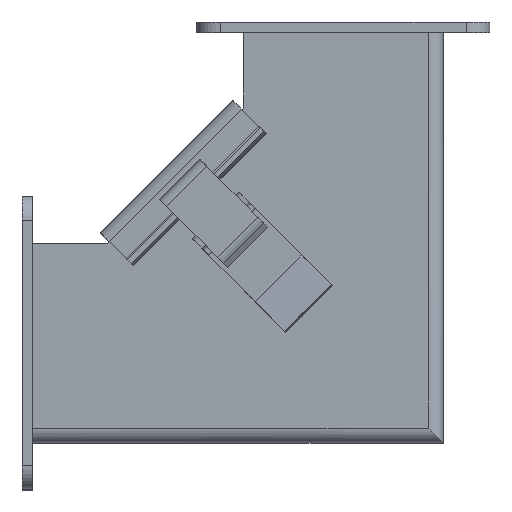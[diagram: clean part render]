
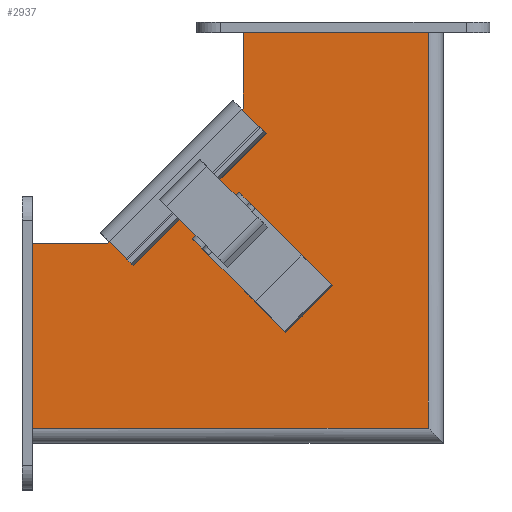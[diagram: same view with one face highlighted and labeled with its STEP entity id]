
A CAD part, top view. The second image highlights one B-rep face of the part: STEP entity #2937.
In plain terms, the highlighted planar face has unit normal (0, 0, 1).
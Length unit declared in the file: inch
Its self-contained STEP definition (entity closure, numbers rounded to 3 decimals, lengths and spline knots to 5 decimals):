
#147 = CARTESIAN_POINT ( 'NONE',  ( -0.7176, 1.33632, 1.3247 ) ) ;
#275 = EDGE_CURVE ( 'NONE', #2103, #2098, #946, .T. ) ;
#318 = EDGE_CURVE ( 'NONE', #1960, #2141, #1087, .T. ) ;
#710 = PLANE ( 'NONE',  #1240 ) ;
#778 = DIRECTION ( 'NONE',  ( -1., 0., 0. ) ) ;
#782 = CARTESIAN_POINT ( 'NONE',  ( 1.125, -3.74682, 1.3247 ) ) ;
#788 = DIRECTION ( 'NONE',  ( 0., 0., -1. ) ) ;
#946 = LINE ( 'NONE', #1989, #991 ) ;
#991 = VECTOR ( 'NONE', #1983, 39.37008 ) ;
#1087 = LINE ( 'NONE', #3128, #1103 ) ;
#1103 = VECTOR ( 'NONE', #3365, 39.37008 ) ;
#1240 = AXIS2_PLACEMENT_3D ( 'NONE', #782, #788, #778 ) ;
#1282 = EDGE_CURVE ( 'NONE', #2072, #2077, #2476, .T. ) ;
#1314 = EDGE_CURVE ( 'NONE', #2072, #2141, #2501, .T. ) ;
#1353 = EDGE_CURVE ( 'NONE', #2142, #2082, #2538, .T. ) ;
#1377 = EDGE_CURVE ( 'NONE', #2077, #2124, #2559, .T. ) ;
#1380 = EDGE_CURVE ( 'NONE', #2142, #2152, #2563, .T. ) ;
#1389 = EDGE_CURVE ( 'NONE', #2082, #2090, #2576, .T. ) ;
#1402 = EDGE_CURVE ( 'NONE', #2103, #1960, #2565, .T. ) ;
#1404 = EDGE_CURVE ( 'NONE', #2152, #2090, #2591, .T. ) ;
#1436 = EDGE_CURVE ( 'NONE', #2124, #2098, #2617, .T. ) ;
#1600 = EDGE_LOOP ( 'NONE', ( #3978, #4016, #4043, #4044, #4042, #4040, #4021 ) ) ;
#1609 = EDGE_LOOP ( 'NONE', ( #3981, #4039, #4050, #4038 ) ) ;
#1960 = VERTEX_POINT ( 'NONE', #3858 ) ;
#1983 = DIRECTION ( 'NONE',  ( -1., 0., 0. ) ) ;
#1989 = CARTESIAN_POINT ( 'NONE',  ( 1.125, -1.125, 1.3247 ) ) ;
#2072 = VERTEX_POINT ( 'NONE', #3867 ) ;
#2077 = VERTEX_POINT ( 'NONE', #3886 ) ;
#2082 = VERTEX_POINT ( 'NONE', #3818 ) ;
#2090 = VERTEX_POINT ( 'NONE', #3799 ) ;
#2098 = VERTEX_POINT ( 'NONE', #3915 ) ;
#2103 = VERTEX_POINT ( 'NONE', #3895 ) ;
#2124 = VERTEX_POINT ( 'NONE', #3916 ) ;
#2141 = VERTEX_POINT ( 'NONE', #3881 ) ;
#2142 = VERTEX_POINT ( 'NONE', #3927 ) ;
#2152 = VERTEX_POINT ( 'NONE', #147 ) ;
#2476 = LINE ( 'NONE', #2953, #2482 ) ;
#2482 = VECTOR ( 'NONE', #3007, 39.37008 ) ;
#2501 = LINE ( 'NONE', #3080, #2502 ) ;
#2502 = VECTOR ( 'NONE', #3082, 39.37008 ) ;
#2538 = LINE ( 'NONE', #3174, #2542 ) ;
#2542 = VECTOR ( 'NONE', #3202, 39.37008 ) ;
#2559 = LINE ( 'NONE', #3251, #2560 ) ;
#2560 = VECTOR ( 'NONE', #3254, 39.37008 ) ;
#2563 = LINE ( 'NONE', #3260, #2564 ) ;
#2564 = VECTOR ( 'NONE', #3261, 39.37008 ) ;
#2565 = LINE ( 'NONE', #3314, #2582 ) ;
#2576 = LINE ( 'NONE', #3289, #2577 ) ;
#2577 = VECTOR ( 'NONE', #3290, 39.37008 ) ;
#2582 = VECTOR ( 'NONE', #3315, 39.37008 ) ;
#2591 = LINE ( 'NONE', #3326, #2592 ) ;
#2592 = VECTOR ( 'NONE', #3328, 39.37008 ) ;
#2617 = LINE ( 'NONE', #3585, #2618 ) ;
#2618 = VECTOR ( 'NONE', #3586, 39.37008 ) ;
#2803 = FACE_BOUND ( 'NONE', #1609, .T. ) ;
#2804 = FACE_OUTER_BOUND ( 'NONE', #1600, .T. ) ;
#2937 = ADVANCED_FACE ( 'NONE', ( #2804, #2803 ), #710, .F. ) ;
#2953 = CARTESIAN_POINT ( 'NONE',  ( -1.3247, 3.11, 1.3247 ) ) ;
#3007 = DIRECTION ( 'NONE',  ( -0.708, -0.706, 0. ) ) ;
#3080 = CARTESIAN_POINT ( 'NONE',  ( -1.3247, -3.74682, 1.3247 ) ) ;
#3082 = DIRECTION ( 'NONE',  ( 0., 1., 0. ) ) ;
#3128 = CARTESIAN_POINT ( 'NONE',  ( 1.125, 4.1155, 1.3247 ) ) ;
#3174 = CARTESIAN_POINT ( 'NONE',  ( -1.99888, 1.38016, 1.3247 ) ) ;
#3202 = DIRECTION ( 'NONE',  ( -0.707, 0.707, 0. ) ) ;
#3251 = CARTESIAN_POINT ( 'NONE',  ( -1.3247, 1.3247, 1.3247 ) ) ;
#3254 = DIRECTION ( 'NONE',  ( -1., 0., 0. ) ) ;
#3260 = CARTESIAN_POINT ( 'NONE',  ( -1.33632, 0.7176, 1.3247 ) ) ;
#3261 = DIRECTION ( 'NONE',  ( 0.707, 0.707, 0. ) ) ;
#3289 = CARTESIAN_POINT ( 'NONE',  ( -1.99888, 1.38016, 1.3247 ) ) ;
#3290 = DIRECTION ( 'NONE',  ( 0.707, 0.707, 0. ) ) ;
#3314 = CARTESIAN_POINT ( 'NONE',  ( 1.125, -3.74682, 1.3247 ) ) ;
#3315 = DIRECTION ( 'NONE',  ( 0., 1., 0. ) ) ;
#3326 = CARTESIAN_POINT ( 'NONE',  ( -1.38016, 1.99888, 1.3247 ) ) ;
#3328 = DIRECTION ( 'NONE',  ( -0.707, 0.707, 0. ) ) ;
#3365 = DIRECTION ( 'NONE',  ( -1., 0., 0. ) ) ;
#3585 = CARTESIAN_POINT ( 'NONE',  ( -4.1155, -3.74682, 1.3247 ) ) ;
#3586 = DIRECTION ( 'NONE',  ( 0., -1., 0. ) ) ;
#3799 = CARTESIAN_POINT ( 'NONE',  ( -1.38016, 1.99888, 1.3247 ) ) ;
#3818 = CARTESIAN_POINT ( 'NONE',  ( -1.99888, 1.38016, 1.3247 ) ) ;
#3858 = CARTESIAN_POINT ( 'NONE',  ( 1.125, 4.1155, 1.3247 ) ) ;
#3867 = CARTESIAN_POINT ( 'NONE',  ( -1.3247, 3.11, 1.3247 ) ) ;
#3881 = CARTESIAN_POINT ( 'NONE',  ( -1.3247, 4.1155, 1.3247 ) ) ;
#3886 = CARTESIAN_POINT ( 'NONE',  ( -3.115, 1.3247, 1.3247 ) ) ;
#3895 = CARTESIAN_POINT ( 'NONE',  ( 1.125, -1.125, 1.3247 ) ) ;
#3915 = CARTESIAN_POINT ( 'NONE',  ( -4.1155, -1.125, 1.3247 ) ) ;
#3916 = CARTESIAN_POINT ( 'NONE',  ( -4.1155, 1.3247, 1.3247 ) ) ;
#3927 = CARTESIAN_POINT ( 'NONE',  ( -1.33632, 0.7176, 1.3247 ) ) ;
#3978 = ORIENTED_EDGE ( 'NONE', *, *, #1377, .T. ) ;
#3981 = ORIENTED_EDGE ( 'NONE', *, *, #1353, .T. ) ;
#4016 = ORIENTED_EDGE ( 'NONE', *, *, #1436, .T. ) ;
#4021 = ORIENTED_EDGE ( 'NONE', *, *, #1282, .T. ) ;
#4038 = ORIENTED_EDGE ( 'NONE', *, *, #1380, .F. ) ;
#4039 = ORIENTED_EDGE ( 'NONE', *, *, #1389, .T. ) ;
#4040 = ORIENTED_EDGE ( 'NONE', *, *, #1314, .F. ) ;
#4042 = ORIENTED_EDGE ( 'NONE', *, *, #318, .T. ) ;
#4043 = ORIENTED_EDGE ( 'NONE', *, *, #275, .F. ) ;
#4044 = ORIENTED_EDGE ( 'NONE', *, *, #1402, .T. ) ;
#4050 = ORIENTED_EDGE ( 'NONE', *, *, #1404, .F. ) ;
